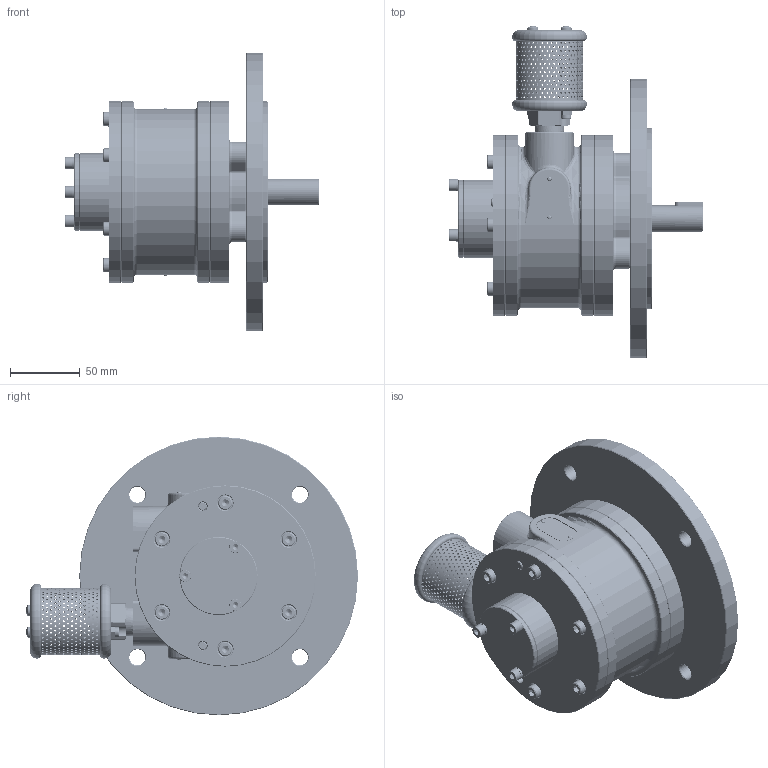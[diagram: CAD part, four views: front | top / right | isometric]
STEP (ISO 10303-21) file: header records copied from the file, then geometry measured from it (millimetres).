
FILE_DESCRIPTION (( 'STEP AP214' ), '1' );
FILE_NAME ('6VMD-SGI (22-04-26).STEP', '2026-04-23T05:07:36', ( '' ), ( '' ), 'SwSTEP 2.0', 'SolidWorks 2017', '' );
FILE_SCHEMA (( 'AUTOMOTIVE_DESIGN' ));
Length unit declared in the file: millimetre
Products named in the file (2): 6VMD-SGI (22-04-26)
Bounding box: 181.85 x 238.2 x 200 mm (x, y, z)
Volume: 957239.6 mm3; surface area: 318429.4 mm2
Topology: 75 solids, 75 shells, 3844 faces, 10104 edges, 6353 vertices
Faces by surface type: cylinder 2267, plane 726, cone 615, torus 184, bspline 28, sphere 24
Entity records: 204571 total; most frequent: CARTESIAN_POINT 70296, ORIENTED_EDGE 19952, DIRECTION 16632, EDGE_CURVE 9976, AXIS2_PLACEMENT_3D 6406, VERTEX_POINT 6349, EDGE_LOOP 5529, UNCERTAINTY_MEASURE_WITH_UNIT 3851
